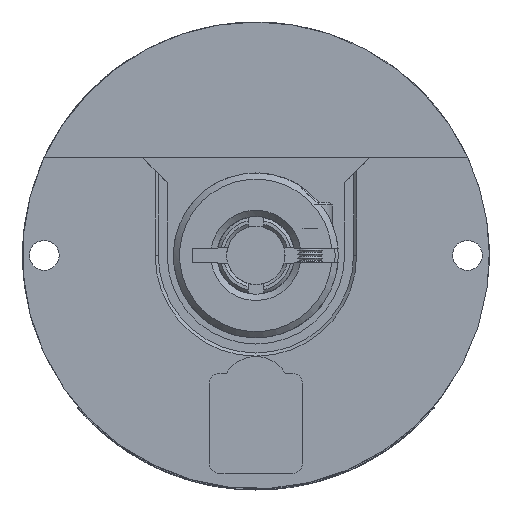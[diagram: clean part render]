
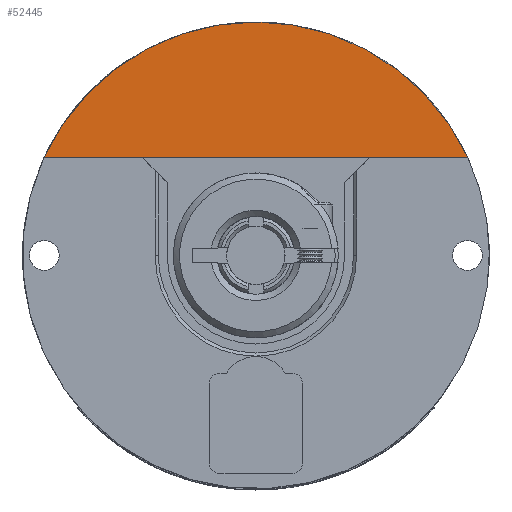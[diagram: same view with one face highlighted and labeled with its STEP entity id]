
A CAD part, front view. The second image highlights one B-rep face of the part: STEP entity #52445.
In plain terms, the highlighted planar face has unit normal (0, -1, 0).
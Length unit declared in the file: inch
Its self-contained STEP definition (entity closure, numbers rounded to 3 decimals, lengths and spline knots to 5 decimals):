
#8594 = DIRECTION ( 'NONE',  ( -1., 0., 0. ) ) ;
#18419 = DIRECTION ( 'NONE',  ( 0., 0., 1. ) ) ;
#20706 = AXIS2_PLACEMENT_3D ( 'NONE', #80586, #112031, #18419 ) ;
#22590 = EDGE_LOOP ( 'NONE', ( #103103, #129899 ) ) ;
#23880 = CIRCLE ( 'NONE', #43605, 0.75 ) ;
#28660 = FACE_OUTER_BOUND ( 'NONE', #22590, .T. ) ;
#40395 = CARTESIAN_POINT ( 'NONE',  ( 0.6811, 0., 0. ) ) ;
#43605 = AXIS2_PLACEMENT_3D ( 'NONE', #49581, #57761, #89140 ) ;
#49581 = CARTESIAN_POINT ( 'NONE',  ( 0., 0., -0.314 ) ) ;
#52445 = ADVANCED_FACE ( 'NONE', ( #28660 ), #124290, .F. ) ;
#56074 = VECTOR ( 'NONE', #8594, 39.37008 ) ;
#57761 = DIRECTION ( 'NONE',  ( 0., 1., 0. ) ) ;
#72865 = LINE ( 'NONE', #111801, #56074 ) ;
#80586 = CARTESIAN_POINT ( 'NONE',  ( 0., 0., -0.314 ) ) ;
#82174 = CARTESIAN_POINT ( 'NONE',  ( -0.6811, 0., 0. ) ) ;
#86170 = EDGE_CURVE ( 'NONE', #101821, #121855, #23880, .T. ) ;
#89140 = DIRECTION ( 'NONE',  ( 0., 0., 1. ) ) ;
#101821 = VERTEX_POINT ( 'NONE', #82174 ) ;
#103103 = ORIENTED_EDGE ( 'NONE', *, *, #86170, .F. ) ;
#111801 = CARTESIAN_POINT ( 'NONE',  ( -0.6811, 0., 0. ) ) ;
#112031 = DIRECTION ( 'NONE',  ( 0., 1., 0. ) ) ;
#118208 = EDGE_CURVE ( 'NONE', #121855, #101821, #72865, .T. ) ;
#121855 = VERTEX_POINT ( 'NONE', #40395 ) ;
#124290 = PLANE ( 'NONE',  #20706 ) ;
#129899 = ORIENTED_EDGE ( 'NONE', *, *, #118208, .F. ) ;
